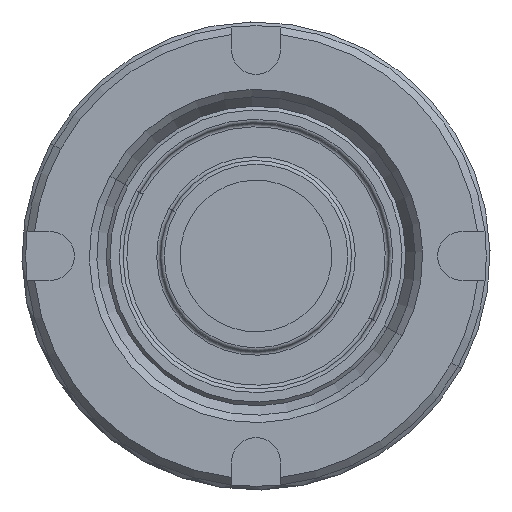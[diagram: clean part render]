
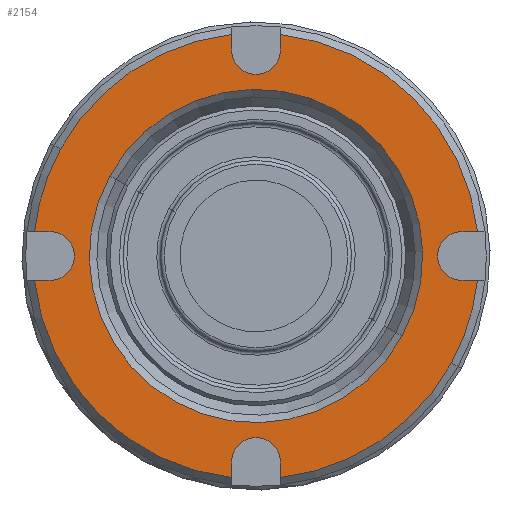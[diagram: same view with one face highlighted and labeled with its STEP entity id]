
A CAD part, front view. The second image highlights one B-rep face of the part: STEP entity #2154.
In plain terms, the highlighted planar face has unit normal (0, -1, 0).
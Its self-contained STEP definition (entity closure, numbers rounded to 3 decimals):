
#1723=CARTESIAN_POINT('Vertex',(-5.222,0.,2.853)) ;
#1726=CARTESIAN_POINT('Axis2P3D Location',(0.,0.,0.)) ;
#1730=CARTESIAN_POINT('Vertex',(-0.65,0.,5.914)) ;
#1755=CARTESIAN_POINT('Vertex',(-0.65,0.,5.5)) ;
#1758=CARTESIAN_POINT('Axis2P3D Location',(0.,0.,5.5)) ;
#1762=CARTESIAN_POINT('Vertex',(0.65,0.,5.5)) ;
#1789=CARTESIAN_POINT('Vertex',(0.65,0.,5.914)) ;
#1792=CARTESIAN_POINT('Line Origine',(0.65,0.,5.707)) ;
#1805=CARTESIAN_POINT('Axis2P3D Location',(0.,0.,0.)) ;
#1809=CARTESIAN_POINT('Vertex',(5.914,0.,0.65)) ;
#1830=CARTESIAN_POINT('Line Origine',(5.707,0.,0.65)) ;
#1834=CARTESIAN_POINT('Vertex',(5.5,0.,0.65)) ;
#1855=CARTESIAN_POINT('Axis2P3D Location',(5.5,0.,0.)) ;
#1859=CARTESIAN_POINT('Vertex',(5.5,0.,-0.65)) ;
#1886=CARTESIAN_POINT('Vertex',(5.914,0.,-0.65)) ;
#1889=CARTESIAN_POINT('Line Origine',(5.707,0.,-0.65)) ;
#1902=CARTESIAN_POINT('Axis2P3D Location',(0.,0.,0.)) ;
#1906=CARTESIAN_POINT('Vertex',(5.222,0.,-2.853)) ;
#1926=CARTESIAN_POINT('Axis2P3D Location',(0.,0.,0.)) ;
#1930=CARTESIAN_POINT('Vertex',(0.65,0.,-5.914)) ;
#1955=CARTESIAN_POINT('Vertex',(0.65,0.,-5.5)) ;
#1958=CARTESIAN_POINT('Axis2P3D Location',(0.,0.,-5.5)) ;
#1962=CARTESIAN_POINT('Vertex',(-0.65,0.,-5.5)) ;
#1989=CARTESIAN_POINT('Vertex',(-0.65,0.,-5.914)) ;
#1992=CARTESIAN_POINT('Line Origine',(-0.65,0.,-5.707)) ;
#2005=CARTESIAN_POINT('Axis2P3D Location',(0.,0.,0.)) ;
#2009=CARTESIAN_POINT('Vertex',(-5.914,0.,-0.65)) ;
#2034=CARTESIAN_POINT('Vertex',(-5.5,0.,-0.65)) ;
#2037=CARTESIAN_POINT('Axis2P3D Location',(-5.5,0.,0.)) ;
#2041=CARTESIAN_POINT('Vertex',(-5.5,0.,0.65)) ;
#2068=CARTESIAN_POINT('Vertex',(-5.914,0.,0.65)) ;
#2071=CARTESIAN_POINT('Line Origine',(-5.707,0.,0.65)) ;
#2084=CARTESIAN_POINT('Axis2P3D Location',(0.,0.,0.)) ;
#2096=CARTESIAN_POINT('Axis2P3D Location',(6.15,0.,0.)) ;
#2101=CARTESIAN_POINT('Line Origine',(0.65,0.,-5.707)) ;
#2106=CARTESIAN_POINT('Line Origine',(-0.65,0.,5.707)) ;
#2111=CARTESIAN_POINT('Line Origine',(-5.707,0.,-0.65)) ;
#2136=CARTESIAN_POINT('Axis2P3D Location',(0.,0.,0.)) ;
#2140=CARTESIAN_POINT('Vertex',(-3.905,0.,2.133)) ;
#2142=CARTESIAN_POINT('Vertex',(3.905,0.,-2.133)) ;
#2145=CARTESIAN_POINT('Axis2P3D Location',(0.,0.,0.)) ;
#1727=DIRECTION('Axis2P3D Direction',(0.,1.,0.)) ;
#1759=DIRECTION('Axis2P3D Direction',(0.,-1.,0.)) ;
#1793=DIRECTION('Vector Direction',(0.,0.,-1.)) ;
#1806=DIRECTION('Axis2P3D Direction',(0.,1.,0.)) ;
#1831=DIRECTION('Vector Direction',(1.,0.,0.)) ;
#1856=DIRECTION('Axis2P3D Direction',(0.,-1.,0.)) ;
#1890=DIRECTION('Vector Direction',(-1.,0.,0.)) ;
#1903=DIRECTION('Axis2P3D Direction',(0.,1.,0.)) ;
#1927=DIRECTION('Axis2P3D Direction',(0.,1.,0.)) ;
#1959=DIRECTION('Axis2P3D Direction',(0.,-1.,-0.)) ;
#1993=DIRECTION('Vector Direction',(0.,0.,1.)) ;
#2006=DIRECTION('Axis2P3D Direction',(0.,1.,0.)) ;
#2038=DIRECTION('Axis2P3D Direction',(-0.,-1.,0.)) ;
#2072=DIRECTION('Vector Direction',(1.,0.,0.)) ;
#2085=DIRECTION('Axis2P3D Direction',(0.,1.,0.)) ;
#2097=DIRECTION('Axis2P3D Direction',(0.,1.,0.)) ;
#2098=DIRECTION('Axis2P3D XDirection',(1.,-0.,0.)) ;
#2102=DIRECTION('Vector Direction',(0.,0.,-1.)) ;
#2107=DIRECTION('Vector Direction',(0.,0.,1.)) ;
#2112=DIRECTION('Vector Direction',(-1.,0.,0.)) ;
#2137=DIRECTION('Axis2P3D Direction',(0.,1.,0.)) ;
#2146=DIRECTION('Axis2P3D Direction',(0.,1.,0.)) ;
#1728=AXIS2_PLACEMENT_3D('Circle Axis2P3D',#1726,#1727,$) ;
#1760=AXIS2_PLACEMENT_3D('Circle Axis2P3D',#1758,#1759,$) ;
#1807=AXIS2_PLACEMENT_3D('Circle Axis2P3D',#1805,#1806,$) ;
#1857=AXIS2_PLACEMENT_3D('Circle Axis2P3D',#1855,#1856,$) ;
#1904=AXIS2_PLACEMENT_3D('Circle Axis2P3D',#1902,#1903,$) ;
#1928=AXIS2_PLACEMENT_3D('Circle Axis2P3D',#1926,#1927,$) ;
#1960=AXIS2_PLACEMENT_3D('Circle Axis2P3D',#1958,#1959,$) ;
#2007=AXIS2_PLACEMENT_3D('Circle Axis2P3D',#2005,#2006,$) ;
#2039=AXIS2_PLACEMENT_3D('Circle Axis2P3D',#2037,#2038,$) ;
#2086=AXIS2_PLACEMENT_3D('Circle Axis2P3D',#2084,#2085,$) ;
#2099=AXIS2_PLACEMENT_3D('Plane Axis2P3D',#2096,#2097,#2098) ;
#2138=AXIS2_PLACEMENT_3D('Circle Axis2P3D',#2136,#2137,$) ;
#2147=AXIS2_PLACEMENT_3D('Circle Axis2P3D',#2145,#2146,$) ;
#2117=ORIENTED_EDGE('',*,*,#1996,.F.) ;
#2118=ORIENTED_EDGE('',*,*,#1964,.F.) ;
#2119=ORIENTED_EDGE('',*,*,#2105,.F.) ;
#2120=ORIENTED_EDGE('',*,*,#1932,.F.) ;
#2121=ORIENTED_EDGE('',*,*,#1908,.F.) ;
#2122=ORIENTED_EDGE('',*,*,#1893,.F.) ;
#2123=ORIENTED_EDGE('',*,*,#1861,.F.) ;
#2124=ORIENTED_EDGE('',*,*,#1836,.F.) ;
#2125=ORIENTED_EDGE('',*,*,#1811,.F.) ;
#2126=ORIENTED_EDGE('',*,*,#1796,.F.) ;
#2127=ORIENTED_EDGE('',*,*,#1764,.F.) ;
#2128=ORIENTED_EDGE('',*,*,#2110,.F.) ;
#2129=ORIENTED_EDGE('',*,*,#1732,.F.) ;
#2130=ORIENTED_EDGE('',*,*,#2088,.F.) ;
#2131=ORIENTED_EDGE('',*,*,#2075,.F.) ;
#2132=ORIENTED_EDGE('',*,*,#2043,.F.) ;
#2133=ORIENTED_EDGE('',*,*,#2115,.F.) ;
#2134=ORIENTED_EDGE('',*,*,#2011,.F.) ;
#2151=ORIENTED_EDGE('',*,*,#2144,.T.) ;
#2152=ORIENTED_EDGE('',*,*,#2149,.T.) ;
#2153=FACE_BOUND('',#2150,.T.) ;
#1794=VECTOR('Line Direction',#1793,1.) ;
#1832=VECTOR('Line Direction',#1831,1.) ;
#1891=VECTOR('Line Direction',#1890,1.) ;
#1994=VECTOR('Line Direction',#1993,1.) ;
#2073=VECTOR('Line Direction',#2072,1.) ;
#2103=VECTOR('Line Direction',#2102,1.) ;
#2108=VECTOR('Line Direction',#2107,1.) ;
#2113=VECTOR('Line Direction',#2112,1.) ;
#2154=ADVANCED_FACE('BODY',(#2135,#2153),#2100,.F.) ;
#1729=CIRCLE('generated circle',#1728,5.95) ;
#1761=CIRCLE('generated circle',#1760,0.65) ;
#1808=CIRCLE('generated circle',#1807,5.95) ;
#1858=CIRCLE('generated circle',#1857,0.65) ;
#1905=CIRCLE('generated circle',#1904,5.95) ;
#1929=CIRCLE('generated circle',#1928,5.95) ;
#1961=CIRCLE('generated circle',#1960,0.65) ;
#2008=CIRCLE('generated circle',#2007,5.95) ;
#2040=CIRCLE('generated circle',#2039,0.65) ;
#2087=CIRCLE('generated circle',#2086,5.95) ;
#2139=CIRCLE('generated circle',#2138,4.45) ;
#2148=CIRCLE('generated circle',#2147,4.45) ;
#1732=EDGE_CURVE('',#1724,#1731,#1729,.T.) ;
#1764=EDGE_CURVE('',#1756,#1763,#1761,.T.) ;
#1796=EDGE_CURVE('',#1763,#1790,#1795,.F.) ;
#1811=EDGE_CURVE('',#1790,#1810,#1808,.T.) ;
#1836=EDGE_CURVE('',#1810,#1835,#1833,.F.) ;
#1861=EDGE_CURVE('',#1835,#1860,#1858,.T.) ;
#1893=EDGE_CURVE('',#1860,#1887,#1892,.F.) ;
#1908=EDGE_CURVE('',#1887,#1907,#1905,.T.) ;
#1932=EDGE_CURVE('',#1907,#1931,#1929,.T.) ;
#1964=EDGE_CURVE('',#1956,#1963,#1961,.T.) ;
#1996=EDGE_CURVE('',#1963,#1990,#1995,.F.) ;
#2011=EDGE_CURVE('',#1990,#2010,#2008,.T.) ;
#2043=EDGE_CURVE('',#2035,#2042,#2040,.T.) ;
#2075=EDGE_CURVE('',#2042,#2069,#2074,.F.) ;
#2088=EDGE_CURVE('',#2069,#1724,#2087,.T.) ;
#2105=EDGE_CURVE('',#1931,#1956,#2104,.F.) ;
#2110=EDGE_CURVE('',#1731,#1756,#2109,.F.) ;
#2115=EDGE_CURVE('',#2010,#2035,#2114,.F.) ;
#2144=EDGE_CURVE('',#2141,#2143,#2139,.T.) ;
#2149=EDGE_CURVE('',#2143,#2141,#2148,.T.) ;
#2116=EDGE_LOOP('',(#2117,#2118,#2119,#2120,#2121,#2122,#2123,#2124,#2125,#2126,#2127,#2128,#2129,#2130,#2131,#2132,#2133,#2134)) ;
#2150=EDGE_LOOP('',(#2151,#2152)) ;
#2135=FACE_OUTER_BOUND('',#2116,.T.) ;
#1795=LINE('Line',#1792,#1794) ;
#1833=LINE('Line',#1830,#1832) ;
#1892=LINE('Line',#1889,#1891) ;
#1995=LINE('Line',#1992,#1994) ;
#2074=LINE('Line',#2071,#2073) ;
#2104=LINE('Line',#2101,#2103) ;
#2109=LINE('Line',#2106,#2108) ;
#2114=LINE('Line',#2111,#2113) ;
#2100=PLANE('Plane',#2099) ;
#1724=VERTEX_POINT('',#1723) ;
#1731=VERTEX_POINT('',#1730) ;
#1756=VERTEX_POINT('',#1755) ;
#1763=VERTEX_POINT('',#1762) ;
#1790=VERTEX_POINT('',#1789) ;
#1810=VERTEX_POINT('',#1809) ;
#1835=VERTEX_POINT('',#1834) ;
#1860=VERTEX_POINT('',#1859) ;
#1887=VERTEX_POINT('',#1886) ;
#1907=VERTEX_POINT('',#1906) ;
#1931=VERTEX_POINT('',#1930) ;
#1956=VERTEX_POINT('',#1955) ;
#1963=VERTEX_POINT('',#1962) ;
#1990=VERTEX_POINT('',#1989) ;
#2010=VERTEX_POINT('',#2009) ;
#2035=VERTEX_POINT('',#2034) ;
#2042=VERTEX_POINT('',#2041) ;
#2069=VERTEX_POINT('',#2068) ;
#2141=VERTEX_POINT('',#2140) ;
#2143=VERTEX_POINT('',#2142) ;
